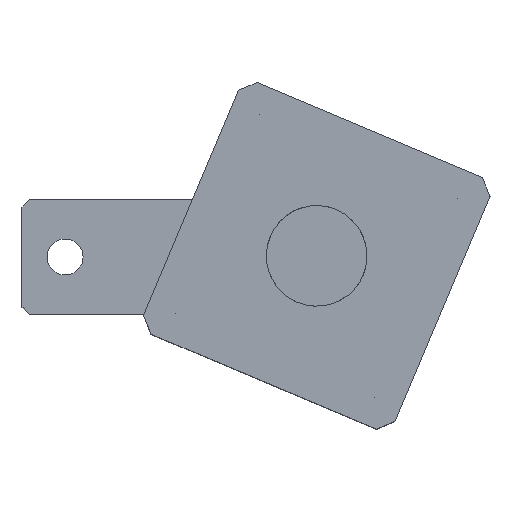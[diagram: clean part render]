
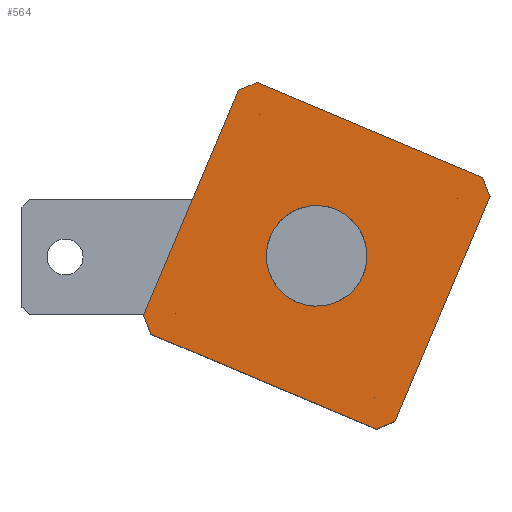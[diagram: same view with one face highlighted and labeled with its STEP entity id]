
A CAD part, top view. The second image highlights one B-rep face of the part: STEP entity #564.
In plain terms, the highlighted planar face has unit normal (0, 0, 1) as drawn and (0, 0, -1) by its records, which use the part's own axes.
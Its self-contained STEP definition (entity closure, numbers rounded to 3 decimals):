
#361 = VERTEX_POINT ( 'NONE', #1394 ) ;
#439 = EDGE_CURVE ( 'NONE', #440, #361, #1563, .T. ) ;
#440 = VERTEX_POINT ( 'NONE', #1559 ) ;
#495 = EDGE_CURVE ( 'NONE', #496, #550, #1715, .T. ) ;
#496 = VERTEX_POINT ( 'NONE', #1711 ) ;
#527 = VERTEX_POINT ( 'NONE', #1774 ) ;
#529 = EDGE_CURVE ( 'NONE', #527, #530, #1773, .T. ) ;
#530 = VERTEX_POINT ( 'NONE', #1769 ) ;
#543 = VERTEX_POINT ( 'NONE', #1748 ) ;
#545 = EDGE_CURVE ( 'NONE', #543, #546, #1747, .T. ) ;
#546 = VERTEX_POINT ( 'NONE', #1807 ) ;
#550 = VERTEX_POINT ( 'NONE', #1796 ) ;
#564 = ADVANCED_FACE ( 'NONE', ( #1832, #1827 ), #1826, .T. ) ;
#565 = EDGE_LOOP ( 'NONE', ( #566, #568 ) ) ;
#566 = ORIENTED_EDGE ( 'NONE', *, *, #567, .T. ) ;
#567 = EDGE_CURVE ( 'NONE', #361, #440, #1821, .T. ) ;
#568 = ORIENTED_EDGE ( 'NONE', *, *, #439, .T. ) ;
#569 = EDGE_LOOP ( 'NONE', ( #570, #630, #633, #634, #636, #637, #639, #640 ) ) ;
#570 = ORIENTED_EDGE ( 'NONE', *, *, #545, .F. ) ;
#591 = VERTEX_POINT ( 'NONE', #1850 ) ;
#593 = EDGE_CURVE ( 'NONE', #591, #594, #1849, .T. ) ;
#594 = VERTEX_POINT ( 'NONE', #1845 ) ;
#630 = ORIENTED_EDGE ( 'NONE', *, *, #632, .T. ) ;
#632 = EDGE_CURVE ( 'NONE', #543, #550, #1930, .T. ) ;
#633 = ORIENTED_EDGE ( 'NONE', *, *, #495, .F. ) ;
#634 = ORIENTED_EDGE ( 'NONE', *, *, #635, .T. ) ;
#635 = EDGE_CURVE ( 'NONE', #496, #594, #1926, .T. ) ;
#636 = ORIENTED_EDGE ( 'NONE', *, *, #593, .F. ) ;
#637 = ORIENTED_EDGE ( 'NONE', *, *, #638, .T. ) ;
#638 = EDGE_CURVE ( 'NONE', #591, #530, #1922, .T. ) ;
#639 = ORIENTED_EDGE ( 'NONE', *, *, #529, .F. ) ;
#640 = ORIENTED_EDGE ( 'NONE', *, *, #641, .T. ) ;
#641 = EDGE_CURVE ( 'NONE', #527, #546, #1918, .T. ) ;
#1394 = CARTESIAN_POINT ( 'NONE',  ( 26., 19., 0. ) ) ;
#1559 = CARTESIAN_POINT ( 'NONE',  ( 12., 19., 0. ) ) ;
#1560 = DIRECTION ( 'NONE',  ( 1., 0., 0. ) ) ;
#1561 = DIRECTION ( 'NONE',  ( 0., 0., 1. ) ) ;
#1562 = AXIS2_PLACEMENT_3D ( 'NONE', #1568, #1561, #1560 ) ;
#1563 = CIRCLE ( 'NONE', #1562, 7. ) ;
#1568 = CARTESIAN_POINT ( 'NONE',  ( 19., 19., 0. ) ) ;
#1711 = CARTESIAN_POINT ( 'NONE',  ( 0., 36., 0. ) ) ;
#1712 = DIRECTION ( 'NONE',  ( 0., -1., 0. ) ) ;
#1713 = VECTOR ( 'NONE', #1712, 1000. ) ;
#1714 = CARTESIAN_POINT ( 'NONE',  ( 0., 0., 0. ) ) ;
#1715 = LINE ( 'NONE', #1714, #1713 ) ;
#1747 = LINE ( 'NONE', #1810, #1809 ) ;
#1748 = CARTESIAN_POINT ( 'NONE',  ( 2., 0., 0. ) ) ;
#1769 = CARTESIAN_POINT ( 'NONE',  ( 38., 36., 0. ) ) ;
#1770 = DIRECTION ( 'NONE',  ( 0., 1., 0. ) ) ;
#1771 = VECTOR ( 'NONE', #1770, 1000. ) ;
#1772 = CARTESIAN_POINT ( 'NONE',  ( 38., 0., 0. ) ) ;
#1773 = LINE ( 'NONE', #1772, #1771 ) ;
#1774 = CARTESIAN_POINT ( 'NONE',  ( 38., 2., 0. ) ) ;
#1796 = CARTESIAN_POINT ( 'NONE',  ( 0., 2., 0. ) ) ;
#1807 = CARTESIAN_POINT ( 'NONE',  ( 36., 0., 0. ) ) ;
#1808 = DIRECTION ( 'NONE',  ( 1., 0., 0. ) ) ;
#1809 = VECTOR ( 'NONE', #1808, 1000. ) ;
#1810 = CARTESIAN_POINT ( 'NONE',  ( 0., 0., 0. ) ) ;
#1817 = DIRECTION ( 'NONE',  ( 1., 0., 0. ) ) ;
#1818 = DIRECTION ( 'NONE',  ( 0., 0., 1. ) ) ;
#1819 = CARTESIAN_POINT ( 'NONE',  ( 19., 19., 0. ) ) ;
#1820 = AXIS2_PLACEMENT_3D ( 'NONE', #1819, #1818, #1817 ) ;
#1821 = CIRCLE ( 'NONE', #1820, 7. ) ;
#1822 = DIRECTION ( 'NONE',  ( -1., 0., 0. ) ) ;
#1823 = DIRECTION ( 'NONE',  ( 0., 0., -1. ) ) ;
#1824 = CARTESIAN_POINT ( 'NONE',  ( 0., 38., 0. ) ) ;
#1825 = AXIS2_PLACEMENT_3D ( 'NONE', #1824, #1823, #1822 ) ;
#1826 = PLANE ( 'NONE',  #1825 ) ;
#1827 = FACE_OUTER_BOUND ( 'NONE', #569, .T. ) ;
#1832 = FACE_BOUND ( 'NONE', #565, .T. ) ;
#1845 = CARTESIAN_POINT ( 'NONE',  ( 2., 38., 0. ) ) ;
#1846 = DIRECTION ( 'NONE',  ( -1., 0., 0. ) ) ;
#1847 = VECTOR ( 'NONE', #1846, 1000. ) ;
#1848 = CARTESIAN_POINT ( 'NONE',  ( 0., 38., 0. ) ) ;
#1849 = LINE ( 'NONE', #1848, #1847 ) ;
#1850 = CARTESIAN_POINT ( 'NONE',  ( 36., 38., 0. ) ) ;
#1915 = DIRECTION ( 'NONE',  ( -0.707, -0.707, 0. ) ) ;
#1916 = VECTOR ( 'NONE', #1915, 1000. ) ;
#1917 = CARTESIAN_POINT ( 'NONE',  ( 37., 1., 0. ) ) ;
#1918 = LINE ( 'NONE', #1917, #1916 ) ;
#1919 = DIRECTION ( 'NONE',  ( 0.707, -0.707, 0. ) ) ;
#1920 = VECTOR ( 'NONE', #1919, 1000. ) ;
#1921 = CARTESIAN_POINT ( 'NONE',  ( 18., 56., 0. ) ) ;
#1922 = LINE ( 'NONE', #1921, #1920 ) ;
#1923 = DIRECTION ( 'NONE',  ( 0.707, 0.707, 0. ) ) ;
#1924 = VECTOR ( 'NONE', #1923, 1000. ) ;
#1925 = CARTESIAN_POINT ( 'NONE',  ( 1., 37., 0. ) ) ;
#1926 = LINE ( 'NONE', #1925, #1924 ) ;
#1927 = DIRECTION ( 'NONE',  ( -0.707, 0.707, 0. ) ) ;
#1928 = VECTOR ( 'NONE', #1927, 1000. ) ;
#1929 = CARTESIAN_POINT ( 'NONE',  ( -18., 20., 0. ) ) ;
#1930 = LINE ( 'NONE', #1929, #1928 ) ;
